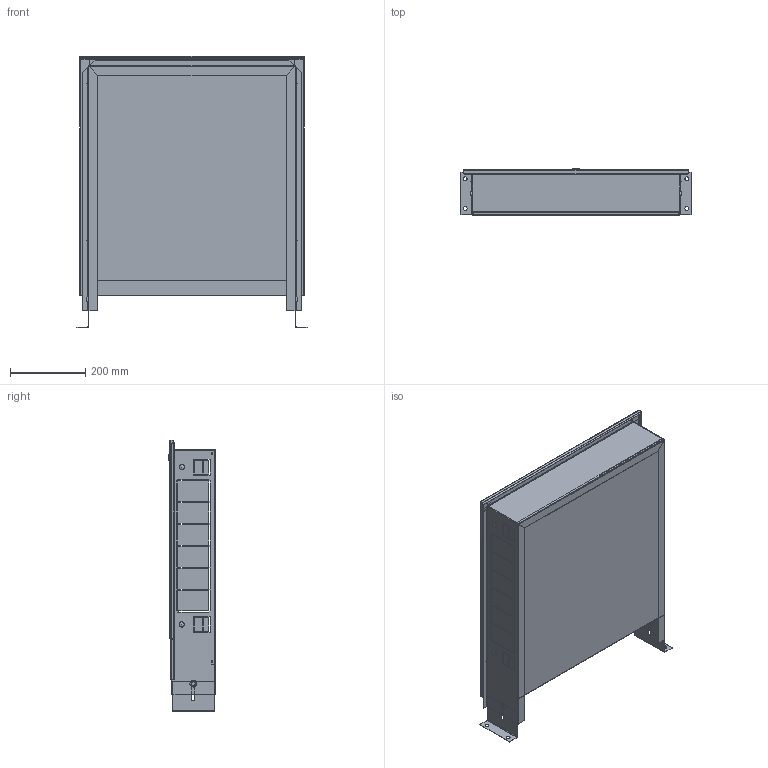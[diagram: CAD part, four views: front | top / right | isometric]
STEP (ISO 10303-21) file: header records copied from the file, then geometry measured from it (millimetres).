
FILE_DESCRIPTION(('TFLEX Exchange Step'),'2;1');
FILE_NAME('Manifold cabinet VTc.540.0.02 Valtec.stp', '2023-10-11T14:38:45+03:00',('denis'),('Unknown organisation'),'TFLEX Exchange 2023.0','T-FLEX CAD','Unknown authorisation');
FILE_SCHEMA( ('AUTOMOTIVE_DESIGN { 1 0 10303 214 1 1 1 1 }') );
Length unit declared in the file: millimetre
Products named in the file (1): Nodes
Bounding box: 610 x 124.1 x 719 mm (x, y, z)
Volume: 938115.8 mm3; surface area: 2250719.6 mm2
Topology: 14 solids, 15 shells, 784 faces, 2075 edges, 1345 vertices
Faces by surface type: plane 592, cylinder 127, cone 43, bspline 12, torus 6, sphere 4
Full cylindrical faces by diameter (mm): 6 x12, 6.4 x6, 7 x2, 10 x5, 12 x1, 14 x4, 16 x1, 18 x6, 20 x2
Entity records: 27234 total; most frequent: CARTESIAN_POINT 7580, ORIENTED_EDGE 4142, DIRECTION 3793, EDGE_CURVE 2071, VECTOR 1535, LINE 1535, VERTEX_POINT 1345, AXIS2_PLACEMENT_3D 1129
